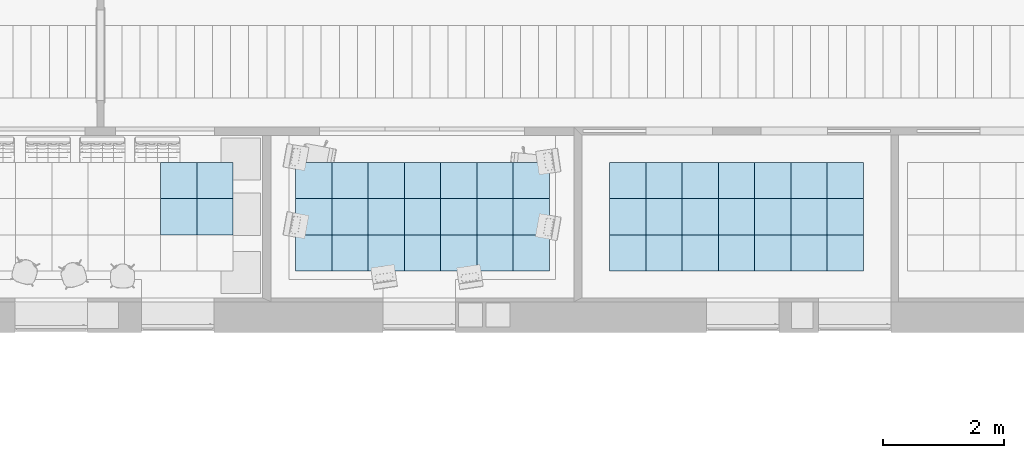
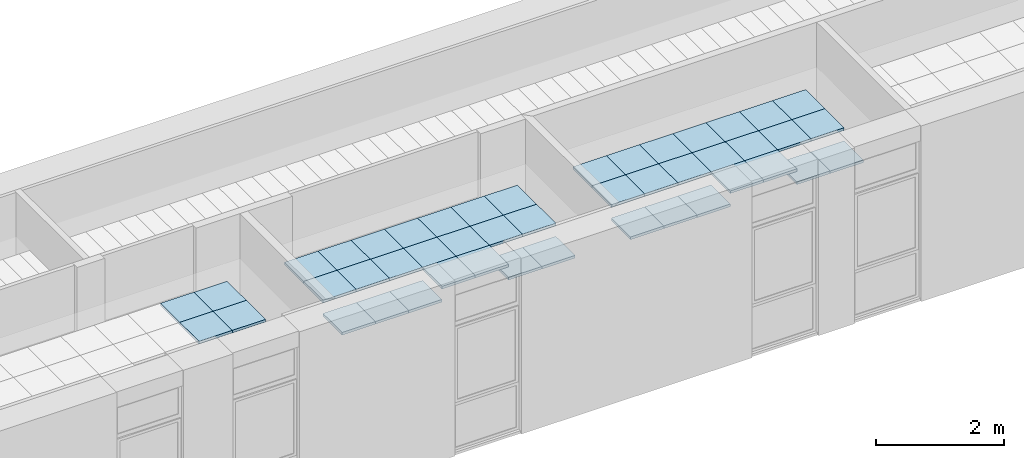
# One storey, part 20 of 68: 46 slabs.
"""IFC2X3 building model written with IfcOpenShell, lengths in millimetres."""

import ifcopenshell
import ifcopenshell.guid

model = None  # the IFC model being written
_history = None  # IfcOwnerHistory: only IFC2X3 demands one
_inside = {}  # id of a spatial element -> (the spatial element, [elements in it])
_under = {}  # id of a project, library or spatial element -> (it, [spatial elements below it])
_declared = {}  # id of a project -> (the project, [libraries it declares])
_typed = {}  # id of a type object -> (the type object, [elements of that type])
_made_of = {}  # id of a material, layer set ... -> (it, [elements and type objects made of it])


def new_model(schema):
    """Start an empty IFC model of exactly this schema.

    Asked for "IFC4X3", IfcOpenShell would pick the latest addendum, in which some entities
    have other attributes; the version numbers below select the first issue.
    IFC2X3 requires an IfcOwnerHistory on every rooted entity: one is made here for all.
    """
    global model, _history
    if schema == "IFC4X3":
        model = ifcopenshell.file(schema_version=(4, 3, 0, 0))
    else:
        model = ifcopenshell.file(schema=schema)
    _inside.clear()
    _under.clear()
    _declared.clear()
    _typed.clear()
    _made_of.clear()
    _history = None
    if model.schema == "IFC2X3":
        org = make("IfcOrganization", Name="unknown")
        user = make(
            "IfcPersonAndOrganization",
            ThePerson=make("IfcPerson", FamilyName="unknown"),
            TheOrganization=org,
        )
        app = make(
            "IfcApplication",
            ApplicationDeveloper=org,
            Version="unknown",
            ApplicationFullName="unknown",
            ApplicationIdentifier="unknown",
        )
        _history = make(
            "IfcOwnerHistory",
            OwningUser=user,
            OwningApplication=app,
            ChangeAction="ADDED",
            CreationDate=0,
        )
    return model


def make(cls, **values):
    """One entity of the class cls with the attributes given. An attribute that is None is left unset."""
    return model.create_entity(
        cls, **{name: value for name, value in values.items() if value is not None}
    )


def entity(cls, *values):
    """Any entity or typed value of the class cls, its attributes in the order of the schema. None: left unset."""
    e = model.create_entity(cls)
    for i, value in enumerate(values):
        if value is not None:
            e[i] = value
    return e


def rooted(cls, **values):
    """An entity with a GlobalId (a new one), such as an element, a storey or a relation."""
    return make(cls, GlobalId=ifcopenshell.guid.new(), OwnerHistory=_history, **values)


def si_unit(unit_type, name, prefix=None):
    """IfcSIUnit, for example si_unit("LENGTHUNIT", "METRE", prefix="MILLI")."""
    return make("IfcSIUnit", UnitType=unit_type, Prefix=prefix, Name=name)


def converted_unit(unit_type, name, factor, base, dimensions=None, offset=None):
    """IfcConversionBasedUnit, such as the inch: factor (a typed value) times the base unit."""
    return make(
        "IfcConversionBasedUnit"
        if offset is None
        else "IfcConversionBasedUnitWithOffset",
        ConversionOffset=offset,
        Dimensions=None
        if dimensions is None
        else entity("IfcDimensionalExponents", *dimensions),
        UnitType=unit_type,
        Name=name,
        ConversionFactor=make(
            "IfcMeasureWithUnit", ValueComponent=factor, UnitComponent=base
        ),
    )


def derived_unit(unit_type, elements):
    """IfcDerivedUnit: a product of units, each with its exponent."""
    return make(
        "IfcDerivedUnit",
        Elements=[
            make("IfcDerivedUnitElement", Unit=unit, Exponent=power)
            for unit, power in elements
        ],
        UnitType=unit_type,
    )


def money_unit(currency):
    """IfcMonetaryUnit."""
    return make("IfcMonetaryUnit", Currency=currency)


def assignment(units):
    """IfcUnitAssignment: the units of a project."""
    return None if units is None else make("IfcUnitAssignment", Units=units)


def point(xyz):
    """IfcCartesianPoint."""
    return None if xyz is None else make("IfcCartesianPoint", Coordinates=xyz)


def direction(xyz):
    """IfcDirection."""
    return None if xyz is None else make("IfcDirection", DirectionRatios=xyz)


def frame(location, z_axis=None, x_axis=None):
    """IfcAxis2Placement3D, a coordinate frame: its origin and axes. An axis left out is left unset."""
    return make(
        "IfcAxis2Placement3D",
        Location=point(location),
        Axis=direction(z_axis),
        RefDirection=direction(x_axis),
    )


def origin_with_axes():
    """The frame at (0, 0, 0) with the z axis (0, 0, 1) and the x axis (1, 0, 0) written out."""
    return frame((0.0, 0.0, 0.0), z_axis=(0.0, 0.0, 1.0), x_axis=(1.0, 0.0, 0.0))


def place(relative_to, where):
    """IfcLocalPlacement: puts the frame where relative to a parent placement (None: the world)."""
    return make(
        "IfcLocalPlacement", PlacementRelTo=relative_to, RelativePlacement=where
    )


def context(
    kind, dimensions, precision=None, world=None, true_north=None, identifier=None
):
    """IfcGeometricRepresentationContext, for example the 3D "Model" context."""
    return make(
        "IfcGeometricRepresentationContext",
        ContextIdentifier=identifier,
        ContextType=kind,
        CoordinateSpaceDimension=dimensions,
        Precision=precision,
        WorldCoordinateSystem=world,
        TrueNorth=true_north,
    )


def subcontext(parent, identifier, kind, view, scale=None):
    """IfcGeometricRepresentationSubContext, for example "Body" below "Model"."""
    return make(
        "IfcGeometricRepresentationSubContext",
        ContextIdentifier=identifier,
        ContextType=kind,
        ParentContext=parent,
        TargetScale=scale,
        TargetView=view,
    )


def project(units=None, contexts=None):
    """IfcProject with its units and contexts."""
    return rooted(
        "IfcProject",
        Name="project",
        RepresentationContexts=contexts,
        UnitsInContext=assignment(units),
    )


def spatial(cls, under=None, at=None, **own):
    """A site, building, storey or space (cls), placed at a placement, below another one or the project."""
    s = rooted(cls, ObjectPlacement=at, **own)
    if under is not None:
        _under.setdefault(under.id(), (under, []))[1].append(s)
    return s


def polyline(points):
    """IfcPolyline through the points."""
    return make("IfcPolyline", Points=[point(p) for p in points])


def outline(outer, holes=None, kind="AREA"):
    """IfcArbitraryClosedProfileDef: a profile drawn as a closed curve; with holes, ...WithVoids."""
    if holes is None:
        return make("IfcArbitraryClosedProfileDef", ProfileType=kind, OuterCurve=outer)
    return make(
        "IfcArbitraryProfileDefWithVoids",
        ProfileType=kind,
        OuterCurve=outer,
        InnerCurves=holes,
    )


def extrude(swept, where, along, depth):
    """IfcExtrudedAreaSolid: the profile swept, set in the frame where, extruded along a direction by depth."""
    return make(
        "IfcExtrudedAreaSolid",
        SweptArea=swept,
        Position=where,
        ExtrudedDirection=direction(along),
        Depth=depth,
    )


def shape(context_of_items, identifier, shape_type, items):
    """IfcShapeRepresentation: the items that make up one representation, for example the "Body"."""
    return make(
        "IfcShapeRepresentation",
        ContextOfItems=context_of_items,
        RepresentationIdentifier=identifier,
        RepresentationType=shape_type,
        Items=items,
    )


def material(Name=None, Category=None):
    """IfcMaterial."""
    return make("IfcMaterial", Name=Name, Category=Category)


def layer(
    of_material, thickness, ventilated=None, Name=None, Category=None, Priority=None
):
    """IfcMaterialLayer: one layer of a wall or slab, of a material (None: an air gap)."""
    return make(
        "IfcMaterialLayer",
        Material=of_material,
        LayerThickness=thickness,
        IsVentilated=ventilated,
        Name=Name,
        Category=Category,
        Priority=Priority,
    )


def layer_set(layers, Name=None):
    """IfcMaterialLayerSet."""
    return make("IfcMaterialLayerSet", MaterialLayers=layers, LayerSetName=Name)


def layer_usage(for_layer_set, set_direction, sense, offset, extent=None):
    """IfcMaterialLayerSetUsage: how a layer set lies in its element."""
    return make(
        "IfcMaterialLayerSetUsage",
        ForLayerSet=for_layer_set,
        LayerSetDirection=set_direction,
        DirectionSense=sense,
        OffsetFromReferenceLine=offset,
        ReferenceExtent=extent,
    )


def made_of(thing, what):
    """Note that an element or type object is made of a material, layer set ...; save() writes the relation."""
    if what is not None:
        _made_of.setdefault(what.id(), (what, []))[1].append(thing)
    return thing


def type_object(cls, material=None, **own):
    """A type object (cls), such as IfcWallType, which elements share."""
    return made_of(rooted(cls, **own), material)


def element(
    cls,
    number,
    at=None,
    inside=None,
    cuts=None,
    type_object=None,
    material=None,
    context=None,
    identifier="Body",
    shape_type=None,
    held_by="IfcProductDefinitionShape",
    body=None,
    shapes=None,
    **own,
):
    """One element of the class cls, such as IfcWall. Its Tag is "e" and its number.

    at: its placement. inside: the storey or other place that contains it. cuts: it is an
    opening in that element (IfcRelVoidsElement). A single representation is given by context,
    identifier, shape_type and body (its items); several are given by shapes. held_by: the class
    of the entity that holds the representations. save() writes the other relations.
    """
    e = rooted(cls, Tag="e%d" % number, ObjectPlacement=at, **own)
    if body is not None:
        shapes = [shape(context, identifier, shape_type, body)]
    if shapes is not None:
        e.Representation = make(held_by, Representations=shapes)
    if inside is not None:
        _inside.setdefault(inside.id(), (inside, []))[1].append(e)
    if cuts is not None:
        rooted(
            "IfcRelVoidsElement", RelatingBuildingElement=cuts, RelatedOpeningElement=e
        )
    if type_object is not None:
        _typed.setdefault(type_object.id(), (type_object, []))[1].append(e)
    return made_of(e, material)


def aggregate(whole, parts):
    """IfcRelAggregates: a whole, such as a stair, and the parts it consists of."""
    return rooted("IfcRelAggregates", RelatingObject=whole, RelatedObjects=parts)


def save(model, path):
    """Write the relations noted so far, then the file.

    IfcRelAggregates (storeys below a building ...), IfcRelContainedInSpatialStructure (elements
    in a storey), IfcRelDefinesByType, IfcRelAssociatesMaterial and IfcRelDeclares: one each for
    every whole, place, type object, material and project.
    """
    for whole, parts in _under.values():
        aggregate(whole, parts)
    for where, things in _inside.values():
        rooted(
            "IfcRelContainedInSpatialStructure",
            RelatedElements=things,
            RelatingStructure=where,
        )
    for kind, things in _typed.values():
        rooted("IfcRelDefinesByType", RelatedObjects=things, RelatingType=kind)
    for what, things in _made_of.values():
        rooted("IfcRelAssociatesMaterial", RelatedObjects=things, RelatingMaterial=what)
    for by, libraries in _declared.values():
        rooted("IfcRelDeclares", RelatingContext=by, RelatedDefinitions=libraries)
    model.write(path)


model = new_model("IFC2X3")

# Units and contexts
model_context = context("Model", 3, precision=0.01, world=origin_with_axes(), true_north=direction((0.0, 1.0)))
body_context = subcontext(model_context, "Body", "Model", "MODEL_VIEW")
ifc_project = project(units=[si_unit("LENGTHUNIT", "METRE", prefix="MILLI"), si_unit("AREAUNIT", "SQUARE_METRE"), si_unit("VOLUMEUNIT", "CUBIC_METRE"), converted_unit("PLANEANGLEUNIT", "DEGREE", entity("IfcPlaneAngleMeasure", 0.0174532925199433), si_unit("PLANEANGLEUNIT", "RADIAN"), dimensions=[0, 0, 0, 0, 0, 0, 0]), money_unit("USD"), converted_unit("TIMEUNIT", "Year", entity("IfcTimeMeasure", 31557600.0), si_unit("TIMEUNIT", "SECOND"), dimensions=[0, 0, 1, 0, 0, 0, 0]), si_unit("MASSUNIT", "GRAM", prefix="KILO"), si_unit("THERMODYNAMICTEMPERATUREUNIT", "DEGREE_CELSIUS"), si_unit("LUMINOUSINTENSITYUNIT", "LUMEN"), si_unit("ENERGYUNIT", "JOULE", prefix="MEGA"), derived_unit("THERMALCONDUCTANCEUNIT", [(si_unit("POWERUNIT", "WATT"), 1), (si_unit("LENGTHUNIT", "METRE"), -1), (si_unit("THERMODYNAMICTEMPERATUREUNIT", "KELVIN"), -1)]), derived_unit("SPECIFICHEATCAPACITYUNIT", [(si_unit("ENERGYUNIT", "JOULE"), 1), (si_unit("MASSUNIT", "GRAM", prefix="KILO"), -1), (si_unit("THERMODYNAMICTEMPERATUREUNIT", "KELVIN"), -1)]), derived_unit("MASSDENSITYUNIT", [(si_unit("MASSUNIT", "GRAM", prefix="KILO"), 1), (si_unit("VOLUMEUNIT", "CUBIC_METRE"), -1)])], contexts=[model_context])

# Site, building, storey
site_placement = place(None, origin_with_axes())
site = spatial("IfcSite", under=ifc_project, at=site_placement, Name="Sitio", CompositionType="ELEMENT")
building_placement = place(site_placement, origin_with_axes())
building = spatial("IfcBuilding", under=site, at=building_placement, Name="Construcción", CompositionType="ELEMENT")
storey_placement = place(building_placement, origin_with_axes())
storey = spatial("IfcBuildingStorey", under=building, at=storey_placement, Name="PLANTA 1ª", CompositionType="ELEMENT", Elevation=0.0)

# Slabs
ifc_material = material(Name="ARQ_CE217_Armstrong 60x60")
ifc_layer = layer(ifc_material, 50.0, ventilated="UNKNOWN")
ifc_layer_set = layer_set([ifc_layer], Name="ARQ_CE217_Armstrong 60x60 50")
ifc_layer_usage_1 = layer_usage(ifc_layer_set, "AXIS3", "NEGATIVE", 50.0)
slab_type = type_object("IfcSlabType", Name="ARQ_CE217_Armstrong 60x60 50", PredefinedType="NOTDEFINED")
slab_1_placement = place(storey_placement, frame((-17220.63976804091, 512.938616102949, 2500.0), z_axis=(0.0, 0.0, 1.0), x_axis=(1.0, 0.0, 0.0)))
element("IfcSlab", 1, at=slab_1_placement, inside=storey, type_object=slab_type, material=ifc_layer_usage_1, Name="SLA - 026", PredefinedType="NOTDEFINED", context=body_context, shape_type="SweptSolid", body=[
    extrude(outline(polyline([(0.0, 0.0), (599.9999999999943, 0.0), (599.9999999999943, 600.0000000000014), (0.0, 600.0000000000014), (0.0, 0.0)])), frame((0.0, 0.0, -50.0), z_axis=(0.0, 0.0, 1.0), x_axis=(1.0, 0.0, 0.0)), (0.0, 0.0, 1.0), 50.0),
])
ifc_layer_usage_2 = layer_usage(ifc_layer_set, "AXIS3", "NEGATIVE", 50.0)
slab_2_placement = place(storey_placement, frame((-17820.63976804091, 512.938616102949, 2500.0), z_axis=(0.0, 0.0, 1.0), x_axis=(1.0, 0.0, 0.0)))
element("IfcSlab", 2, at=slab_2_placement, inside=storey, type_object=slab_type, material=ifc_layer_usage_2, Name="SLA - 026", PredefinedType="NOTDEFINED", context=body_context, shape_type="SweptSolid", body=[
    extrude(outline(polyline([(0.0, 0.0), (600.0000000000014, 0.0), (600.0000000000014, 600.0000000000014), (0.0, 600.0000000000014), (0.0, 0.0)])), frame((0.0, 0.0, -50.0), z_axis=(0.0, 0.0, 1.0), x_axis=(1.0, 0.0, 0.0)), (0.0, 0.0, 1.0), 50.0),
])
ifc_layer_usage_3 = layer_usage(ifc_layer_set, "AXIS3", "NEGATIVE", 50.0)
slab_3_placement = place(storey_placement, frame((-6784.357017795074, -87.06143878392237, 2500.0), z_axis=(0.0, 0.0, 1.0), x_axis=(1.0, 0.0, 0.0)))
element("IfcSlab", 3, at=slab_3_placement, inside=storey, type_object=slab_type, material=ifc_layer_usage_3, Name="SLA - 026", PredefinedType="NOTDEFINED", context=body_context, shape_type="SweptSolid", body=[
    extrude(outline(polyline([(0.0, 0.0), (600.0000000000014, 0.0), (600.0000000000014, 600.0000000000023), (0.0, 600.0000000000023), (0.0, 0.0)])), frame((0.0, 0.0, -50.0), z_axis=(0.0, 0.0, 1.0), x_axis=(1.0, 0.0, 0.0)), (0.0, 0.0, 1.0), 50.0),
])
ifc_layer_usage_4 = layer_usage(ifc_layer_set, "AXIS3", "NEGATIVE", 50.0)
slab_4_placement = place(storey_placement, frame((-17820.63976804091, -87.06138389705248, 2500.0), z_axis=(0.0, 0.0, 1.0), x_axis=(1.0, 0.0, 0.0)))
element("IfcSlab", 4, at=slab_4_placement, inside=storey, type_object=slab_type, material=ifc_layer_usage_4, Name="SLA - 026", PredefinedType="NOTDEFINED", context=body_context, shape_type="SweptSolid", body=[
    extrude(outline(polyline([(0.0, 0.0), (600.0000000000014, 0.0), (600.0000000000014, 600.0000000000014), (0.0, 600.0000000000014), (0.0, 0.0)])), frame((0.0, 0.0, -50.0), z_axis=(0.0, 0.0, 1.0), x_axis=(1.0, 0.0, 0.0)), (0.0, 0.0, 1.0), 50.0),
])
ifc_layer_usage_5 = layer_usage(ifc_layer_set, "AXIS3", "NEGATIVE", 50.0)
slab_5_placement = place(storey_placement, frame((-17220.63976804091, -87.06138389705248, 2500.0), z_axis=(0.0, 0.0, 1.0), x_axis=(1.0, 0.0, 0.0)))
element("IfcSlab", 5, at=slab_5_placement, inside=storey, type_object=slab_type, material=ifc_layer_usage_5, Name="SLA - 026", PredefinedType="NOTDEFINED", context=body_context, shape_type="SweptSolid", body=[
    extrude(outline(polyline([(0.0, 0.0), (599.9999999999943, 0.0), (599.9999999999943, 600.0000000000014), (0.0, 600.0000000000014), (0.0, 0.0)])), frame((0.0, 0.0, -50.0), z_axis=(0.0, 0.0, 1.0), x_axis=(1.0, 0.0, 0.0)), (0.0, 0.0, 1.0), 50.0),
])
ifc_layer_usage_6 = layer_usage(ifc_layer_set, "AXIS3", "NEGATIVE", 50.0)
slab_6_placement = place(storey_placement, frame((-8584.357017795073, -687.0614387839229, 2500.0), z_axis=(0.0, 0.0, 1.0), x_axis=(1.0, 0.0, 0.0)))
element("IfcSlab", 6, at=slab_6_placement, inside=storey, type_object=slab_type, material=ifc_layer_usage_6, Name="SLA - 026", PredefinedType="NOTDEFINED", context=body_context, shape_type="SweptSolid", body=[
    extrude(outline(polyline([(0.0, 0.0), (600.0000000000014, 0.0), (600.0000000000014, 600.0000000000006), (0.0, 600.0000000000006), (0.0, 0.0)])), frame((0.0, 0.0, -50.0), z_axis=(0.0, 0.0, 1.0), x_axis=(1.0, 0.0, 0.0)), (0.0, 0.0, 1.0), 50.0),
])
ifc_layer_usage_7 = layer_usage(ifc_layer_set, "AXIS3", "NEGATIVE", 50.0)
slab_7_placement = place(storey_placement, frame((-7384.357017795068, -687.0614387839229, 2250.0), z_axis=(0.0, 0.0, 1.0), x_axis=(1.0, 0.0, 0.0)))
element("IfcSlab", 7, at=slab_7_placement, inside=storey, type_object=slab_type, material=ifc_layer_usage_7, Name="SLA - 026", PredefinedType="NOTDEFINED", context=body_context, shape_type="SweptSolid", body=[
    extrude(outline(polyline([(0.0, 0.0), (599.9999999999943, 0.0), (599.9999999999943, 600.0000000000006), (0.0, 600.0000000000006), (0.0, 0.0)])), frame((0.0, 0.0, -50.0), z_axis=(0.0, 0.0, 1.0), x_axis=(1.0, 0.0, 0.0)), (0.0, 0.0, 1.0), 50.0),
])
ifc_layer_usage_8 = layer_usage(ifc_layer_set, "AXIS3", "NEGATIVE", 50.0)
slab_8_placement = place(storey_placement, frame((-7984.357017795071, -687.0614387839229, 2500.0), z_axis=(0.0, 0.0, 1.0), x_axis=(1.0, 0.0, 0.0)))
element("IfcSlab", 8, at=slab_8_placement, inside=storey, type_object=slab_type, material=ifc_layer_usage_8, Name="SLA - 026", PredefinedType="NOTDEFINED", context=body_context, shape_type="SweptSolid", body=[
    extrude(outline(polyline([(0.0, 0.0), (600.0000000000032, 0.0), (600.0000000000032, 600.0000000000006), (0.0, 600.0000000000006), (0.0, 0.0)])), frame((0.0, 0.0, -50.0), z_axis=(0.0, 0.0, 1.0), x_axis=(1.0, 0.0, 0.0)), (0.0, 0.0, 1.0), 50.0),
])
ifc_layer_usage_9 = layer_usage(ifc_layer_set, "AXIS3", "NEGATIVE", 50.0)
slab_9_placement = place(storey_placement, frame((-8584.357017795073, -87.06143878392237, 2500.0), z_axis=(0.0, 0.0, 1.0), x_axis=(1.0, 0.0, 0.0)))
element("IfcSlab", 9, at=slab_9_placement, inside=storey, type_object=slab_type, material=ifc_layer_usage_9, Name="SLA - 026", PredefinedType="NOTDEFINED", context=body_context, shape_type="SweptSolid", body=[
    extrude(outline(polyline([(0.0, 0.0), (600.0000000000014, 0.0), (600.0000000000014, 600.0000000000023), (0.0, 600.0000000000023), (0.0, 0.0)])), frame((0.0, 0.0, -50.0), z_axis=(0.0, 0.0, 1.0), x_axis=(1.0, 0.0, 0.0)), (0.0, 0.0, 1.0), 50.0),
])
ifc_layer_usage_10 = layer_usage(ifc_layer_set, "AXIS3", "NEGATIVE", 50.0)
slab_10_placement = place(storey_placement, frame((-7384.357017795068, -87.06143878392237, 2500.0), z_axis=(0.0, 0.0, 1.0), x_axis=(1.0, 0.0, 0.0)))
element("IfcSlab", 10, at=slab_10_placement, inside=storey, type_object=slab_type, material=ifc_layer_usage_10, Name="SLA - 026", PredefinedType="NOTDEFINED", context=body_context, shape_type="SweptSolid", body=[
    extrude(outline(polyline([(0.0, 0.0), (599.9999999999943, 0.0), (599.9999999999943, 600.0000000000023), (0.0, 600.0000000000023), (0.0, 0.0)])), frame((0.0, 0.0, -50.0), z_axis=(0.0, 0.0, 1.0), x_axis=(1.0, 0.0, 0.0)), (0.0, 0.0, 1.0), 50.0),
])
ifc_layer_usage_11 = layer_usage(ifc_layer_set, "AXIS3", "NEGATIVE", 50.0)
slab_11_placement = place(storey_placement, frame((-8584.357017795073, 512.93856121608, 2500.0), z_axis=(0.0, 0.0, 1.0), x_axis=(1.0, 0.0, 0.0)))
element("IfcSlab", 11, at=slab_11_placement, inside=storey, type_object=slab_type, material=ifc_layer_usage_11, Name="SLA - 026", PredefinedType="NOTDEFINED", context=body_context, shape_type="SweptSolid", body=[
    extrude(outline(polyline([(0.0, 0.0), (600.0000000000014, 0.0), (600.0000000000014, 600.0000000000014), (0.0, 600.0000000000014), (0.0, 0.0)])), frame((0.0, 0.0, -50.0), z_axis=(0.0, 0.0, 1.0), x_axis=(1.0, 0.0, 0.0)), (0.0, 0.0, 1.0), 50.0),
])
ifc_layer_usage_12 = layer_usage(ifc_layer_set, "AXIS3", "NEGATIVE", 50.0)
slab_12_placement = place(storey_placement, frame((-7984.357017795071, -87.06143878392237, 2500.0), z_axis=(0.0, 0.0, 1.0), x_axis=(1.0, 0.0, 0.0)))
element("IfcSlab", 12, at=slab_12_placement, inside=storey, type_object=slab_type, material=ifc_layer_usage_12, Name="SLA - 026", PredefinedType="NOTDEFINED", context=body_context, shape_type="SweptSolid", body=[
    extrude(outline(polyline([(0.0, 0.0), (600.0000000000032, 0.0), (600.0000000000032, 600.0000000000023), (0.0, 600.0000000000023), (0.0, 0.0)])), frame((0.0, 0.0, -50.0), z_axis=(0.0, 0.0, 1.0), x_axis=(1.0, 0.0, 0.0)), (0.0, 0.0, 1.0), 50.0),
])
ifc_layer_usage_13 = layer_usage(ifc_layer_set, "AXIS3", "NEGATIVE", 50.0)
slab_13_placement = place(storey_placement, frame((-7984.357017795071, 512.93856121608, 2500.0), z_axis=(0.0, 0.0, 1.0), x_axis=(1.0, 0.0, 0.0)))
element("IfcSlab", 13, at=slab_13_placement, inside=storey, type_object=slab_type, material=ifc_layer_usage_13, Name="SLA - 026", PredefinedType="NOTDEFINED", context=body_context, shape_type="SweptSolid", body=[
    extrude(outline(polyline([(0.0, 0.0), (600.0000000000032, 0.0), (600.0000000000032, 600.0000000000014), (0.0, 600.0000000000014), (0.0, 0.0)])), frame((0.0, 0.0, -50.0), z_axis=(0.0, 0.0, 1.0), x_axis=(1.0, 0.0, 0.0)), (0.0, 0.0, 1.0), 50.0),
])
ifc_layer_usage_14 = layer_usage(ifc_layer_set, "AXIS3", "NEGATIVE", 50.0)
slab_14_placement = place(storey_placement, frame((-7384.357017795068, 512.93856121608, 2500.0), z_axis=(0.0, 0.0, 1.0), x_axis=(1.0, 0.0, 0.0)))
element("IfcSlab", 14, at=slab_14_placement, inside=storey, type_object=slab_type, material=ifc_layer_usage_14, Name="SLA - 026", PredefinedType="NOTDEFINED", context=body_context, shape_type="SweptSolid", body=[
    extrude(outline(polyline([(0.0, 0.0), (599.9999999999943, 0.0), (599.9999999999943, 600.0000000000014), (0.0, 600.0000000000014), (0.0, 0.0)])), frame((0.0, 0.0, -50.0), z_axis=(0.0, 0.0, 1.0), x_axis=(1.0, 0.0, 0.0)), (0.0, 0.0, 1.0), 50.0),
])
ifc_layer_usage_15 = layer_usage(ifc_layer_set, "AXIS3", "NEGATIVE", 50.0)
slab_15_placement = place(storey_placement, frame((-9784.357017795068, -687.0614387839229, 2250.0), z_axis=(0.0, 0.0, 1.0), x_axis=(1.0, 0.0, 0.0)))
element("IfcSlab", 15, at=slab_15_placement, inside=storey, type_object=slab_type, material=ifc_layer_usage_15, Name="SLA - 026", PredefinedType="NOTDEFINED", context=body_context, shape_type="SweptSolid", body=[
    extrude(outline(polyline([(0.0, 0.0), (600.0000000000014, 0.0), (600.0000000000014, 600.0000000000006), (0.0, 600.0000000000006), (0.0, 0.0)])), frame((0.0, 0.0, -50.0), z_axis=(0.0, 0.0, 1.0), x_axis=(1.0, 0.0, 0.0)), (0.0, 0.0, 1.0), 50.0),
])
ifc_layer_usage_16 = layer_usage(ifc_layer_set, "AXIS3", "NEGATIVE", 50.0)
slab_16_placement = place(storey_placement, frame((-10384.35701779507, -87.06143878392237, 2500.0), z_axis=(0.0, 0.0, 1.0), x_axis=(1.0, 0.0, 0.0)))
element("IfcSlab", 16, at=slab_16_placement, inside=storey, type_object=slab_type, material=ifc_layer_usage_16, Name="SLA - 026", PredefinedType="NOTDEFINED", context=body_context, shape_type="SweptSolid", body=[
    extrude(outline(polyline([(0.0, 0.0), (600.0000000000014, 0.0), (600.0000000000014, 600.0000000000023), (0.0, 600.0000000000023), (0.0, 0.0)])), frame((0.0, 0.0, -50.0), z_axis=(0.0, 0.0, 1.0), x_axis=(1.0, 0.0, 0.0)), (0.0, 0.0, 1.0), 50.0),
])
ifc_layer_usage_17 = layer_usage(ifc_layer_set, "AXIS3", "NEGATIVE", 50.0)
slab_17_placement = place(storey_placement, frame((-9784.357017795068, -87.06143878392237, 2500.0), z_axis=(0.0, 0.0, 1.0), x_axis=(1.0, 0.0, 0.0)))
element("IfcSlab", 17, at=slab_17_placement, inside=storey, type_object=slab_type, material=ifc_layer_usage_17, Name="SLA - 026", PredefinedType="NOTDEFINED", context=body_context, shape_type="SweptSolid", body=[
    extrude(outline(polyline([(0.0, 0.0), (600.0000000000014, 0.0), (600.0000000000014, 600.0000000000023), (0.0, 600.0000000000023), (0.0, 0.0)])), frame((0.0, 0.0, -50.0), z_axis=(0.0, 0.0, 1.0), x_axis=(1.0, 0.0, 0.0)), (0.0, 0.0, 1.0), 50.0),
])
ifc_layer_usage_18 = layer_usage(ifc_layer_set, "AXIS3", "NEGATIVE", 50.0)
slab_18_placement = place(storey_placement, frame((-9184.357017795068, -87.06143878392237, 2500.0), z_axis=(0.0, 0.0, 1.0), x_axis=(1.0, 0.0, 0.0)))
element("IfcSlab", 18, at=slab_18_placement, inside=storey, type_object=slab_type, material=ifc_layer_usage_18, Name="SLA - 026", PredefinedType="NOTDEFINED", context=body_context, shape_type="SweptSolid", body=[
    extrude(outline(polyline([(0.0, 0.0), (599.9999999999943, 0.0), (599.9999999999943, 600.0000000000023), (0.0, 600.0000000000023), (0.0, 0.0)])), frame((0.0, 0.0, -50.0), z_axis=(0.0, 0.0, 1.0), x_axis=(1.0, 0.0, 0.0)), (0.0, 0.0, 1.0), 50.0),
])
ifc_layer_usage_19 = layer_usage(ifc_layer_set, "AXIS3", "NEGATIVE", 50.0)
slab_19_placement = place(storey_placement, frame((-10384.35701779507, 512.93856121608, 2500.0), z_axis=(0.0, 0.0, 1.0), x_axis=(1.0, 0.0, 0.0)))
element("IfcSlab", 19, at=slab_19_placement, inside=storey, type_object=slab_type, material=ifc_layer_usage_19, Name="SLA - 026", PredefinedType="NOTDEFINED", context=body_context, shape_type="SweptSolid", body=[
    extrude(outline(polyline([(0.0, 0.0), (600.0000000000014, 0.0), (600.0000000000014, 600.0000000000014), (0.0, 600.0000000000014), (0.0, 0.0)])), frame((0.0, 0.0, -50.0), z_axis=(0.0, 0.0, 1.0), x_axis=(1.0, 0.0, 0.0)), (0.0, 0.0, 1.0), 50.0),
])
ifc_layer_usage_20 = layer_usage(ifc_layer_set, "AXIS3", "NEGATIVE", 50.0)
slab_20_placement = place(storey_placement, frame((-9184.357017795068, 512.93856121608, 2500.0), z_axis=(0.0, 0.0, 1.0), x_axis=(1.0, 0.0, 0.0)))
element("IfcSlab", 20, at=slab_20_placement, inside=storey, type_object=slab_type, material=ifc_layer_usage_20, Name="SLA - 026", PredefinedType="NOTDEFINED", context=body_context, shape_type="SweptSolid", body=[
    extrude(outline(polyline([(0.0, 0.0), (599.9999999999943, 0.0), (599.9999999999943, 600.0000000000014), (0.0, 600.0000000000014), (0.0, 0.0)])), frame((0.0, 0.0, -50.0), z_axis=(0.0, 0.0, 1.0), x_axis=(1.0, 0.0, 0.0)), (0.0, 0.0, 1.0), 50.0),
])
ifc_layer_usage_21 = layer_usage(ifc_layer_set, "AXIS3", "NEGATIVE", 50.0)
slab_21_placement = place(storey_placement, frame((-9784.357017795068, 512.93856121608, 2500.0), z_axis=(0.0, 0.0, 1.0), x_axis=(1.0, 0.0, 0.0)))
element("IfcSlab", 21, at=slab_21_placement, inside=storey, type_object=slab_type, material=ifc_layer_usage_21, Name="SLA - 026", PredefinedType="NOTDEFINED", context=body_context, shape_type="SweptSolid", body=[
    extrude(outline(polyline([(0.0, 0.0), (600.0000000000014, 0.0), (600.0000000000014, 600.0000000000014), (0.0, 600.0000000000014), (0.0, 0.0)])), frame((0.0, 0.0, -50.0), z_axis=(0.0, 0.0, 1.0), x_axis=(1.0, 0.0, 0.0)), (0.0, 0.0, 1.0), 50.0),
])
ifc_layer_usage_22 = layer_usage(ifc_layer_set, "AXIS3", "NEGATIVE", 50.0)
slab_22_placement = place(storey_placement, frame((-6784.357017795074, -687.0614387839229, 2250.0), z_axis=(0.0, 0.0, 1.0), x_axis=(1.0, 0.0, 0.0)))
element("IfcSlab", 22, at=slab_22_placement, inside=storey, type_object=slab_type, material=ifc_layer_usage_22, Name="SLA - 026", PredefinedType="NOTDEFINED", context=body_context, shape_type="SweptSolid", body=[
    extrude(outline(polyline([(0.0, 0.0), (600.0000000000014, 0.0), (600.0000000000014, 600.0000000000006), (0.0, 600.0000000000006), (0.0, 0.0)])), frame((0.0, 0.0, -50.0), z_axis=(0.0, 0.0, 1.0), x_axis=(1.0, 0.0, 0.0)), (0.0, 0.0, 1.0), 50.0),
])
ifc_layer_usage_23 = layer_usage(ifc_layer_set, "AXIS3", "NEGATIVE", 50.0)
slab_23_placement = place(storey_placement, frame((-10384.35701779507, -687.0614387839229, 2250.0), z_axis=(0.0, 0.0, 1.0), x_axis=(1.0, 0.0, 0.0)))
element("IfcSlab", 23, at=slab_23_placement, inside=storey, type_object=slab_type, material=ifc_layer_usage_23, Name="SLA - 026", PredefinedType="NOTDEFINED", context=body_context, shape_type="SweptSolid", body=[
    extrude(outline(polyline([(0.0, 0.0), (600.0000000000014, 0.0), (600.0000000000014, 600.0000000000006), (0.0, 600.0000000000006), (0.0, 0.0)])), frame((0.0, 0.0, -50.0), z_axis=(0.0, 0.0, 1.0), x_axis=(1.0, 0.0, 0.0)), (0.0, 0.0, 1.0), 50.0),
])
ifc_layer_usage_24 = layer_usage(ifc_layer_set, "AXIS3", "NEGATIVE", 50.0)
slab_24_placement = place(storey_placement, frame((-9184.357017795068, -687.0614387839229, 2250.0), z_axis=(0.0, 0.0, 1.0), x_axis=(1.0, 0.0, 0.0)))
element("IfcSlab", 24, at=slab_24_placement, inside=storey, type_object=slab_type, material=ifc_layer_usage_24, Name="SLA - 026", PredefinedType="NOTDEFINED", context=body_context, shape_type="SweptSolid", body=[
    extrude(outline(polyline([(0.0, 0.0), (599.9999999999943, 0.0), (599.9999999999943, 600.0000000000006), (0.0, 600.0000000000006), (0.0, 0.0)])), frame((0.0, 0.0, -50.0), z_axis=(0.0, 0.0, 1.0), x_axis=(1.0, 0.0, 0.0)), (0.0, 0.0, 1.0), 50.0),
])
ifc_layer_usage_25 = layer_usage(ifc_layer_set, "AXIS3", "NEGATIVE", 50.0)
slab_25_placement = place(storey_placement, frame((-6784.357017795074, 512.93856121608, 2500.0), z_axis=(0.0, 0.0, 1.0), x_axis=(1.0, 0.0, 0.0)))
element("IfcSlab", 25, at=slab_25_placement, inside=storey, type_object=slab_type, material=ifc_layer_usage_25, Name="SLA - 026", PredefinedType="NOTDEFINED", context=body_context, shape_type="SweptSolid", body=[
    extrude(outline(polyline([(0.0, 0.0), (600.0000000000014, 0.0), (600.0000000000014, 600.0000000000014), (0.0, 600.0000000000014), (0.0, 0.0)])), frame((0.0, 0.0, -50.0), z_axis=(0.0, 0.0, 1.0), x_axis=(1.0, 0.0, 0.0)), (0.0, 0.0, 1.0), 50.0),
])
ifc_layer_usage_26 = layer_usage(ifc_layer_set, "AXIS3", "NEGATIVE", 50.0)
slab_26_placement = place(storey_placement, frame((-14985.1397680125, 512.9385612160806, 2500.0), z_axis=(0.0, 0.0, 1.0), x_axis=(1.0, 0.0, 0.0)))
element("IfcSlab", 26, at=slab_26_placement, inside=storey, type_object=slab_type, material=ifc_layer_usage_26, Name="SLA - 026", PredefinedType="NOTDEFINED", context=body_context, shape_type="SweptSolid", body=[
    extrude(outline(polyline([(0.0, 0.0), (600.0000000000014, 0.0), (600.0000000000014, 600.0000000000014), (0.0, 600.0000000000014), (0.0, 0.0)])), frame((0.0, 0.0, -50.0), z_axis=(0.0, 0.0, 1.0), x_axis=(1.0, 0.0, 0.0)), (0.0, 0.0, 1.0), 50.0),
])
ifc_layer_usage_27 = layer_usage(ifc_layer_set, "AXIS3", "NEGATIVE", 50.0)
slab_27_placement = place(storey_placement, frame((-14385.1397680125, 512.9385612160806, 2500.0), z_axis=(0.0, 0.0, 1.0), x_axis=(1.0, 0.0, 0.0)))
element("IfcSlab", 27, at=slab_27_placement, inside=storey, type_object=slab_type, material=ifc_layer_usage_27, Name="SLA - 026", PredefinedType="NOTDEFINED", context=body_context, shape_type="SweptSolid", body=[
    extrude(outline(polyline([(0.0, 0.0), (599.9999999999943, 0.0), (599.9999999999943, 600.0000000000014), (0.0, 600.0000000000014), (0.0, 0.0)])), frame((0.0, 0.0, -50.0), z_axis=(0.0, 0.0, 1.0), x_axis=(1.0, 0.0, 0.0)), (0.0, 0.0, 1.0), 50.0),
])
ifc_layer_usage_28 = layer_usage(ifc_layer_set, "AXIS3", "NEGATIVE", 50.0)
slab_28_placement = place(storey_placement, frame((-15585.1397680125, 512.9385612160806, 2500.0), z_axis=(0.0, 0.0, 1.0), x_axis=(1.0, 0.0, 0.0)))
element("IfcSlab", 28, at=slab_28_placement, inside=storey, type_object=slab_type, material=ifc_layer_usage_28, Name="SLA - 026", PredefinedType="NOTDEFINED", context=body_context, shape_type="SweptSolid", body=[
    extrude(outline(polyline([(0.0, 0.0), (600.0000000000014, 0.0), (600.0000000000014, 600.0000000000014), (0.0, 600.0000000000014), (0.0, 0.0)])), frame((0.0, 0.0, -50.0), z_axis=(0.0, 0.0, 1.0), x_axis=(1.0, 0.0, 0.0)), (0.0, 0.0, 1.0), 50.0),
])
ifc_layer_usage_29 = layer_usage(ifc_layer_set, "AXIS3", "NEGATIVE", 50.0)
slab_29_placement = place(storey_placement, frame((-14385.1397680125, -87.0614387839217, 2500.0), z_axis=(0.0, 0.0, 1.0), x_axis=(1.0, 0.0, 0.0)))
element("IfcSlab", 29, at=slab_29_placement, inside=storey, type_object=slab_type, material=ifc_layer_usage_29, Name="SLA - 026", PredefinedType="NOTDEFINED", context=body_context, shape_type="SweptSolid", body=[
    extrude(outline(polyline([(0.0, 0.0), (599.9999999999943, 0.0), (599.9999999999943, 600.0000000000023), (0.0, 600.0000000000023), (0.0, 0.0)])), frame((0.0, 0.0, -50.0), z_axis=(0.0, 0.0, 1.0), x_axis=(1.0, 0.0, 0.0)), (0.0, 0.0, 1.0), 50.0),
])
ifc_layer_usage_30 = layer_usage(ifc_layer_set, "AXIS3", "NEGATIVE", 50.0)
slab_30_placement = place(storey_placement, frame((-15585.1397680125, -87.0614387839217, 2500.0), z_axis=(0.0, 0.0, 1.0), x_axis=(1.0, 0.0, 0.0)))
element("IfcSlab", 30, at=slab_30_placement, inside=storey, type_object=slab_type, material=ifc_layer_usage_30, Name="SLA - 026", PredefinedType="NOTDEFINED", context=body_context, shape_type="SweptSolid", body=[
    extrude(outline(polyline([(0.0, 0.0), (600.0000000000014, 0.0), (600.0000000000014, 600.0000000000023), (0.0, 600.0000000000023), (0.0, 0.0)])), frame((0.0, 0.0, -50.0), z_axis=(0.0, 0.0, 1.0), x_axis=(1.0, 0.0, 0.0)), (0.0, 0.0, 1.0), 50.0),
])
ifc_layer_usage_31 = layer_usage(ifc_layer_set, "AXIS3", "NEGATIVE", 50.0)
slab_31_placement = place(storey_placement, frame((-14985.1397680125, -87.0614387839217, 2500.0), z_axis=(0.0, 0.0, 1.0), x_axis=(1.0, 0.0, 0.0)))
element("IfcSlab", 31, at=slab_31_placement, inside=storey, type_object=slab_type, material=ifc_layer_usage_31, Name="SLA - 026", PredefinedType="NOTDEFINED", context=body_context, shape_type="SweptSolid", body=[
    extrude(outline(polyline([(0.0, 0.0), (600.0000000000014, 0.0), (600.0000000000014, 600.0000000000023), (0.0, 600.0000000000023), (0.0, 0.0)])), frame((0.0, 0.0, -50.0), z_axis=(0.0, 0.0, 1.0), x_axis=(1.0, 0.0, 0.0)), (0.0, 0.0, 1.0), 50.0),
])
ifc_layer_usage_32 = layer_usage(ifc_layer_set, "AXIS3", "NEGATIVE", 50.0)
slab_32_placement = place(storey_placement, frame((-14985.1397680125, -687.0614387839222, 2250.0), z_axis=(0.0, 0.0, 1.0), x_axis=(1.0, 0.0, 0.0)))
element("IfcSlab", 32, at=slab_32_placement, inside=storey, type_object=slab_type, material=ifc_layer_usage_32, Name="SLA - 026", PredefinedType="NOTDEFINED", context=body_context, shape_type="SweptSolid", body=[
    extrude(outline(polyline([(0.0, 0.0), (600.0000000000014, 0.0), (600.0000000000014, 600.0000000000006), (0.0, 600.0000000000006), (0.0, 0.0)])), frame((0.0, 0.0, -50.0), z_axis=(0.0, 0.0, 1.0), x_axis=(1.0, 0.0, 0.0)), (0.0, 0.0, 1.0), 50.0),
])
ifc_layer_usage_33 = layer_usage(ifc_layer_set, "AXIS3", "NEGATIVE", 50.0)
slab_33_placement = place(storey_placement, frame((-15585.1397680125, -687.0614387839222, 2250.0), z_axis=(0.0, 0.0, 1.0), x_axis=(1.0, 0.0, 0.0)))
element("IfcSlab", 33, at=slab_33_placement, inside=storey, type_object=slab_type, material=ifc_layer_usage_33, Name="SLA - 026", PredefinedType="NOTDEFINED", context=body_context, shape_type="SweptSolid", body=[
    extrude(outline(polyline([(0.0, 0.0), (600.0000000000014, 0.0), (600.0000000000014, 600.0000000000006), (0.0, 600.0000000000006), (0.0, 0.0)])), frame((0.0, 0.0, -50.0), z_axis=(0.0, 0.0, 1.0), x_axis=(1.0, 0.0, 0.0)), (0.0, 0.0, 1.0), 50.0),
])
ifc_layer_usage_34 = layer_usage(ifc_layer_set, "AXIS3", "NEGATIVE", 50.0)
slab_34_placement = place(storey_placement, frame((-13185.1397680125, 512.9385612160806, 2500.0), z_axis=(0.0, 0.0, 1.0), x_axis=(1.0, 0.0, 0.0)))
element("IfcSlab", 34, at=slab_34_placement, inside=storey, type_object=slab_type, material=ifc_layer_usage_34, Name="SLA - 026", PredefinedType="NOTDEFINED", context=body_context, shape_type="SweptSolid", body=[
    extrude(outline(polyline([(0.0, 0.0), (600.0000000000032, 0.0), (600.0000000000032, 600.0000000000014), (0.0, 600.0000000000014), (0.0, 0.0)])), frame((0.0, 0.0, -50.0), z_axis=(0.0, 0.0, 1.0), x_axis=(1.0, 0.0, 0.0)), (0.0, 0.0, 1.0), 50.0),
])
ifc_layer_usage_35 = layer_usage(ifc_layer_set, "AXIS3", "NEGATIVE", 50.0)
slab_35_placement = place(storey_placement, frame((-12585.1397680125, 512.9385612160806, 2500.0), z_axis=(0.0, 0.0, 1.0), x_axis=(1.0, 0.0, 0.0)))
element("IfcSlab", 35, at=slab_35_placement, inside=storey, type_object=slab_type, material=ifc_layer_usage_35, Name="SLA - 026", PredefinedType="NOTDEFINED", context=body_context, shape_type="SweptSolid", body=[
    extrude(outline(polyline([(0.0, 0.0), (599.9999999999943, 0.0), (599.9999999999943, 600.0000000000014), (0.0, 600.0000000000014), (0.0, 0.0)])), frame((0.0, 0.0, -50.0), z_axis=(0.0, 0.0, 1.0), x_axis=(1.0, 0.0, 0.0)), (0.0, 0.0, 1.0), 50.0),
])
ifc_layer_usage_36 = layer_usage(ifc_layer_set, "AXIS3", "NEGATIVE", 50.0)
slab_36_placement = place(storey_placement, frame((-13785.13976801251, 512.9385612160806, 2500.0), z_axis=(0.0, 0.0, 1.0), x_axis=(1.0, 0.0, 0.0)))
element("IfcSlab", 36, at=slab_36_placement, inside=storey, type_object=slab_type, material=ifc_layer_usage_36, Name="SLA - 026", PredefinedType="NOTDEFINED", context=body_context, shape_type="SweptSolid", body=[
    extrude(outline(polyline([(0.0, 0.0), (600.0000000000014, 0.0), (600.0000000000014, 600.0000000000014), (0.0, 600.0000000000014), (0.0, 0.0)])), frame((0.0, 0.0, -50.0), z_axis=(0.0, 0.0, 1.0), x_axis=(1.0, 0.0, 0.0)), (0.0, 0.0, 1.0), 50.0),
])
ifc_layer_usage_37 = layer_usage(ifc_layer_set, "AXIS3", "NEGATIVE", 50.0)
slab_37_placement = place(storey_placement, frame((-14385.1397680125, -687.0614387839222, 2250.0), z_axis=(0.0, 0.0, 1.0), x_axis=(1.0, 0.0, 0.0)))
element("IfcSlab", 37, at=slab_37_placement, inside=storey, type_object=slab_type, material=ifc_layer_usage_37, Name="SLA - 026", PredefinedType="NOTDEFINED", context=body_context, shape_type="SweptSolid", body=[
    extrude(outline(polyline([(0.0, 0.0), (599.9999999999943, 0.0), (599.9999999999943, 600.0000000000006), (0.0, 600.0000000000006), (0.0, 0.0)])), frame((0.0, 0.0, -50.0), z_axis=(0.0, 0.0, 1.0), x_axis=(1.0, 0.0, 0.0)), (0.0, 0.0, 1.0), 50.0),
])
ifc_layer_usage_38 = layer_usage(ifc_layer_set, "AXIS3", "NEGATIVE", 50.0)
slab_38_placement = place(storey_placement, frame((-13185.1397680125, -87.0614387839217, 2500.0), z_axis=(0.0, 0.0, 1.0), x_axis=(1.0, 0.0, 0.0)))
element("IfcSlab", 38, at=slab_38_placement, inside=storey, type_object=slab_type, material=ifc_layer_usage_38, Name="SLA - 026", PredefinedType="NOTDEFINED", context=body_context, shape_type="SweptSolid", body=[
    extrude(outline(polyline([(0.0, 0.0), (600.0000000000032, 0.0), (600.0000000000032, 600.0000000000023), (0.0, 600.0000000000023), (0.0, 0.0)])), frame((0.0, 0.0, -50.0), z_axis=(0.0, 0.0, 1.0), x_axis=(1.0, 0.0, 0.0)), (0.0, 0.0, 1.0), 50.0),
])
ifc_layer_usage_39 = layer_usage(ifc_layer_set, "AXIS3", "NEGATIVE", 50.0)
slab_39_placement = place(storey_placement, frame((-12585.1397680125, -87.0614387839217, 2500.0), z_axis=(0.0, 0.0, 1.0), x_axis=(1.0, 0.0, 0.0)))
element("IfcSlab", 39, at=slab_39_placement, inside=storey, type_object=slab_type, material=ifc_layer_usage_39, Name="SLA - 026", PredefinedType="NOTDEFINED", context=body_context, shape_type="SweptSolid", body=[
    extrude(outline(polyline([(0.0, 0.0), (599.9999999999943, 0.0), (599.9999999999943, 600.0000000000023), (0.0, 600.0000000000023), (0.0, 0.0)])), frame((0.0, 0.0, -50.0), z_axis=(0.0, 0.0, 1.0), x_axis=(1.0, 0.0, 0.0)), (0.0, 0.0, 1.0), 50.0),
])
ifc_layer_usage_40 = layer_usage(ifc_layer_set, "AXIS3", "NEGATIVE", 50.0)
slab_40_placement = place(storey_placement, frame((-13785.13976801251, -87.0614387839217, 2500.0), z_axis=(0.0, 0.0, 1.0), x_axis=(1.0, 0.0, 0.0)))
element("IfcSlab", 40, at=slab_40_placement, inside=storey, type_object=slab_type, material=ifc_layer_usage_40, Name="SLA - 026", PredefinedType="NOTDEFINED", context=body_context, shape_type="SweptSolid", body=[
    extrude(outline(polyline([(0.0, 0.0), (600.0000000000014, 0.0), (600.0000000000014, 600.0000000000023), (0.0, 600.0000000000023), (0.0, 0.0)])), frame((0.0, 0.0, -50.0), z_axis=(0.0, 0.0, 1.0), x_axis=(1.0, 0.0, 0.0)), (0.0, 0.0, 1.0), 50.0),
])
ifc_layer_usage_41 = layer_usage(ifc_layer_set, "AXIS3", "NEGATIVE", 50.0)
slab_41_placement = place(storey_placement, frame((-13185.1397680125, -687.0614387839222, 2500.0), z_axis=(0.0, 0.0, 1.0), x_axis=(1.0, 0.0, 0.0)))
element("IfcSlab", 41, at=slab_41_placement, inside=storey, type_object=slab_type, material=ifc_layer_usage_41, Name="SLA - 026", PredefinedType="NOTDEFINED", context=body_context, shape_type="SweptSolid", body=[
    extrude(outline(polyline([(0.0, 0.0), (600.0000000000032, 0.0), (600.0000000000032, 600.0000000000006), (0.0, 600.0000000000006), (0.0, 0.0)])), frame((0.0, 0.0, -50.0), z_axis=(0.0, 0.0, 1.0), x_axis=(1.0, 0.0, 0.0)), (0.0, 0.0, 1.0), 50.0),
])
ifc_layer_usage_42 = layer_usage(ifc_layer_set, "AXIS3", "NEGATIVE", 50.0)
slab_42_placement = place(storey_placement, frame((-12585.1397680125, -687.0614387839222, 2250.0), z_axis=(0.0, 0.0, 1.0), x_axis=(1.0, 0.0, 0.0)))
element("IfcSlab", 42, at=slab_42_placement, inside=storey, type_object=slab_type, material=ifc_layer_usage_42, Name="SLA - 026", PredefinedType="NOTDEFINED", context=body_context, shape_type="SweptSolid", body=[
    extrude(outline(polyline([(0.0, 0.0), (599.9999999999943, 0.0), (599.9999999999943, 600.0000000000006), (0.0, 600.0000000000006), (0.0, 0.0)])), frame((0.0, 0.0, -50.0), z_axis=(0.0, 0.0, 1.0), x_axis=(1.0, 0.0, 0.0)), (0.0, 0.0, 1.0), 50.0),
])
ifc_layer_usage_43 = layer_usage(ifc_layer_set, "AXIS3", "NEGATIVE", 50.0)
slab_43_placement = place(storey_placement, frame((-13785.13976801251, -687.0614387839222, 2500.0), z_axis=(0.0, 0.0, 1.0), x_axis=(1.0, 0.0, 0.0)))
element("IfcSlab", 43, at=slab_43_placement, inside=storey, type_object=slab_type, material=ifc_layer_usage_43, Name="SLA - 026", PredefinedType="NOTDEFINED", context=body_context, shape_type="SweptSolid", body=[
    extrude(outline(polyline([(0.0, 0.0), (600.0000000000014, 0.0), (600.0000000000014, 600.0000000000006), (0.0, 600.0000000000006), (0.0, 0.0)])), frame((0.0, 0.0, -50.0), z_axis=(0.0, 0.0, 1.0), x_axis=(1.0, 0.0, 0.0)), (0.0, 0.0, 1.0), 50.0),
])
ifc_layer_usage_44 = layer_usage(ifc_layer_set, "AXIS3", "NEGATIVE", 50.0)
slab_44_placement = place(storey_placement, frame((-11985.13976801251, 512.9385612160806, 2500.0), z_axis=(0.0, 0.0, 1.0), x_axis=(1.0, 0.0, 0.0)))
element("IfcSlab", 44, at=slab_44_placement, inside=storey, type_object=slab_type, material=ifc_layer_usage_44, Name="SLA - 026", PredefinedType="NOTDEFINED", context=body_context, shape_type="SweptSolid", body=[
    extrude(outline(polyline([(0.0, 0.0), (600.0000000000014, 0.0), (600.0000000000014, 600.0000000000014), (0.0, 600.0000000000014), (0.0, 0.0)])), frame((0.0, 0.0, -50.0), z_axis=(0.0, 0.0, 1.0), x_axis=(1.0, 0.0, 0.0)), (0.0, 0.0, 1.0), 50.0),
])
ifc_layer_usage_45 = layer_usage(ifc_layer_set, "AXIS3", "NEGATIVE", 50.0)
slab_45_placement = place(storey_placement, frame((-11985.13976801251, -87.0614387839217, 2500.0), z_axis=(0.0, 0.0, 1.0), x_axis=(1.0, 0.0, 0.0)))
element("IfcSlab", 45, at=slab_45_placement, inside=storey, type_object=slab_type, material=ifc_layer_usage_45, Name="SLA - 026", PredefinedType="NOTDEFINED", context=body_context, shape_type="SweptSolid", body=[
    extrude(outline(polyline([(0.0, 0.0), (600.0000000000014, 0.0), (600.0000000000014, 600.0000000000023), (0.0, 600.0000000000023), (0.0, 0.0)])), frame((0.0, 0.0, -50.0), z_axis=(0.0, 0.0, 1.0), x_axis=(1.0, 0.0, 0.0)), (0.0, 0.0, 1.0), 50.0),
])
ifc_layer_usage_46 = layer_usage(ifc_layer_set, "AXIS3", "NEGATIVE", 50.0)
slab_46_placement = place(storey_placement, frame((-11985.13976801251, -687.0614387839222, 2250.0), z_axis=(0.0, 0.0, 1.0), x_axis=(1.0, 0.0, 0.0)))
element("IfcSlab", 46, at=slab_46_placement, inside=storey, type_object=slab_type, material=ifc_layer_usage_46, Name="SLA - 026", PredefinedType="NOTDEFINED", context=body_context, shape_type="SweptSolid", body=[
    extrude(outline(polyline([(0.0, 0.0), (600.0000000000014, 0.0), (600.0000000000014, 600.0000000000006), (0.0, 600.0000000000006), (0.0, 0.0)])), frame((0.0, 0.0, -50.0), z_axis=(0.0, 0.0, 1.0), x_axis=(1.0, 0.0, 0.0)), (0.0, 0.0, 1.0), 50.0),
])

save(model, "model.ifc")
